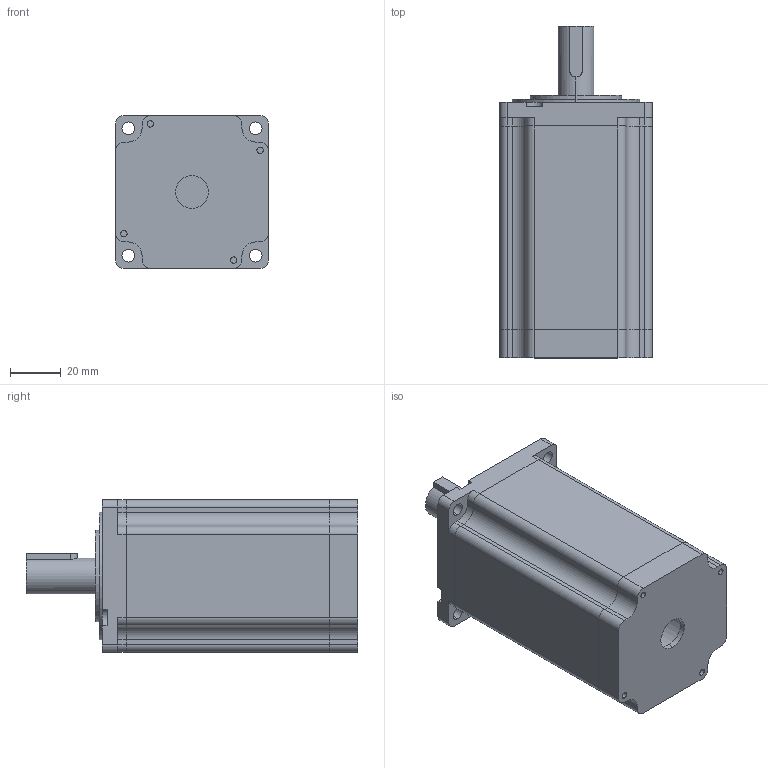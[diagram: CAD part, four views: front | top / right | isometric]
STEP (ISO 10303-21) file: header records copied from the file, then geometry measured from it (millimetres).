
FILE_DESCRIPTION (( 'STEP AP214' ), '1' );
FILE_NAME ('60HS102-K1430-003.STEP', '2020-05-08T01:09:08', ( 'wimxt.com' ), ( 'wimxt.com' ), 'SwSTEP 2.0', 'SolidWorks 2014', '' );
FILE_SCHEMA (( 'AUTOMOTIVE_DESIGN' ));
Length unit declared in the file: millimetre
Products named in the file (5): 5X5X20瑩; 60傷裔; 60菁釱; 60-80隅赽; 60HS102-K1430-003
Assembly tree (4 placements, depth 2):
  60HS102-K1430-003
    60-80隅赽
    60菁釱
    60傷裔
    5X5X20瑩
Bounding box: 60 x 130.3 x 60 mm (x, y, z)
Volume: 143977.8 mm3; surface area: 64612.3 mm2
Topology: 4 solids, 4 shells, 262 faces, 706 edges, 471 vertices
Faces by surface type: plane 137, cylinder 125
Entity records: 8673 total; most frequent: DIRECTION 1500, CARTESIAN_POINT 1478, ORIENTED_EDGE 1412, EDGE_CURVE 706, AXIS2_PLACEMENT_3D 527, VERTEX_POINT 471, VECTOR 446, LINE 446
